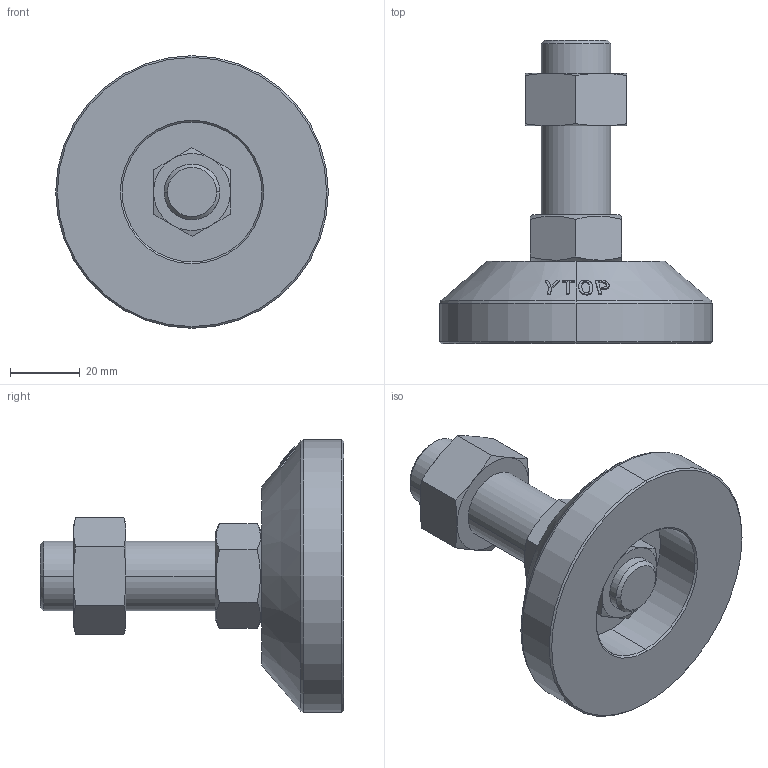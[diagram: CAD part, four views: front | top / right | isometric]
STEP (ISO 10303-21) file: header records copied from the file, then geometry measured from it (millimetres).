
FILE_DESCRIPTION (( 'STEP AP203' ), '1' );
FILE_NAME ('M-80-2050-S.STEP', '2020-09-10T06:59:52', ( '' ), ( '' ), 'SwSTEP 2.0', 'SolidWorks 2016', '' );
FILE_SCHEMA (( 'CONFIG_CONTROL_DESIGN' ));
Length unit declared in the file: millimetre
Products named in the file (5): 不锈钢双头螺杆M20系列_M20X50; M-80-1褐菜 ; M-80-2050-S; 脚垫锁紧六角薄螺母M16; 脚垫调节六角螺母M20
Assembly tree (4 placements, depth 2):
  M-80-2050-S
    M-80-1褐菜 
    不锈钢双头螺杆M20系列_M20X50
    脚垫锁紧六角薄螺母M16
    脚垫调节六角螺母M20
Bounding box: 78 x 86.8 x 78 mm (x, y, z)
Volume: 111838 mm3; surface area: 25994 mm2
Topology: 4 solids, 4 shells, 143 faces, 330 edges, 204 vertices
Faces by surface type: cone 62, bspline 38, plane 29, cylinder 14
Entity records: 8475 total; most frequent: CARTESIAN_POINT 5118, ORIENTED_EDGE 660, DIRECTION 456, EDGE_CURVE 330, VERTEX_POINT 204, AXIS2_PLACEMENT_3D 196, B_SPLINE_CURVE_WITH_KNOTS 182, EDGE_LOOP 158
